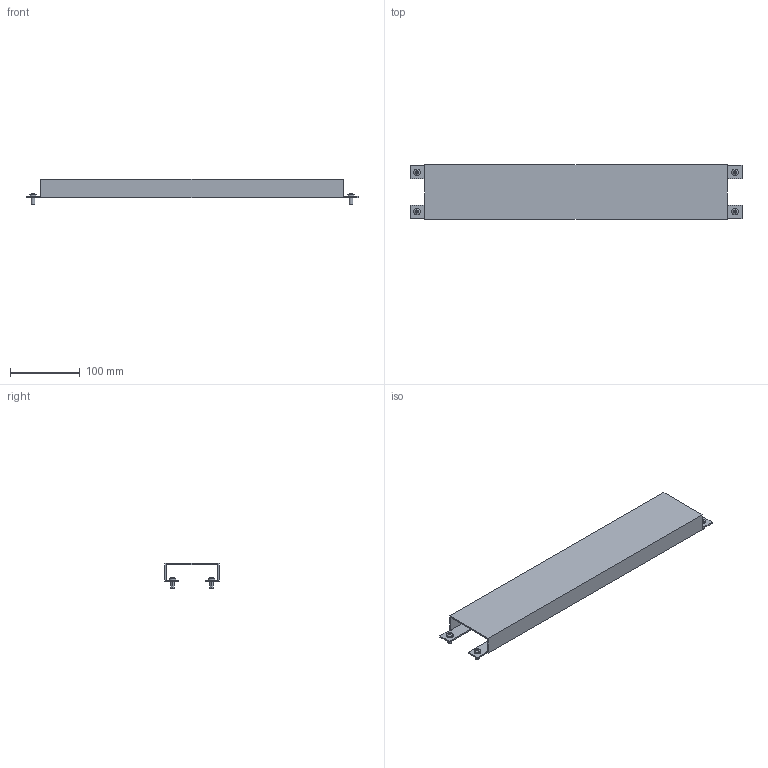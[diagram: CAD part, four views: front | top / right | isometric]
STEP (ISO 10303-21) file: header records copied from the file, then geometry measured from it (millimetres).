
FILE_DESCRIPTION(('Open CASCADE Model'),'2;1');
FILE_NAME('Open CASCADE Shape Model','2025-02-27T09:51:08',('Author'),( 'Open CASCADE'),'Open CASCADE STEP processor 7.8','Open CASCADE 7.8' ,'Unknown');
FILE_SCHEMA(('AUTOMOTIVE_DESIGN { 1 0 10303 214 1 1 1 1 }'));
Length unit declared in the file: millimetre
Products named in the file (3): Compound1; Solid1; Solid2
Assembly tree (5 placements, depth 2):
  Compound1
    Solid1
    Solid2  x4
Bounding box: 475 x 78 x 36 mm (x, y, z)
Volume: 144935.8 mm3; surface area: 147850.4 mm2
Topology: 5 solids, 5 shells, 146 faces, 344 edges, 204 vertices
Faces by surface type: plane 74, cylinder 24, cone 16, torus 16, bspline 8, sphere 8
Entity records: 2510 total; most frequent: CARTESIAN_POINT 607, ORIENTED_EDGE 384, DIRECTION 382, EDGE_CURVE 192, LINE 138, VECTOR 138, VERTEX_POINT 123, AXIS2_PLACEMENT_3D 122
